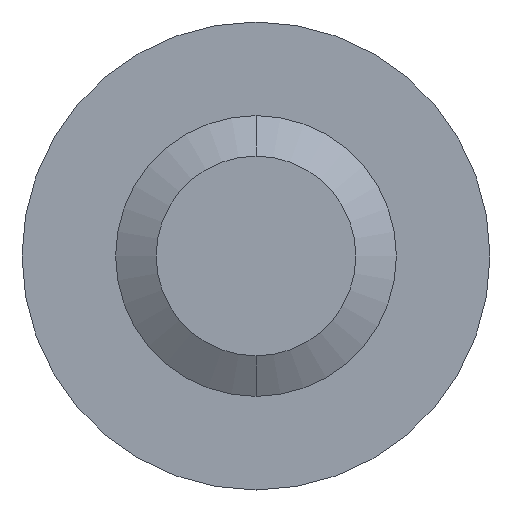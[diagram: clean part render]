
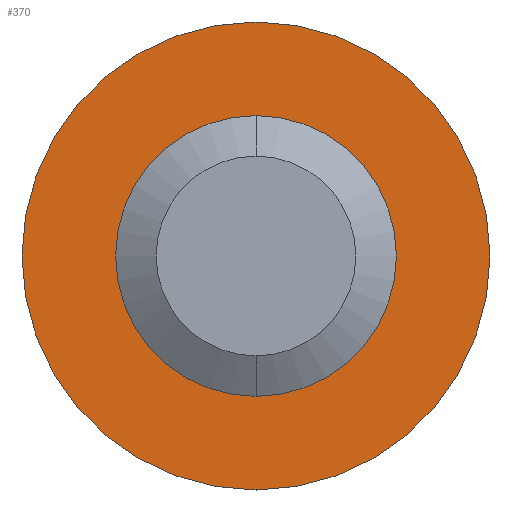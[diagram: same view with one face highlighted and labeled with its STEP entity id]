
A CAD part, front view. The second image highlights one B-rep face of the part: STEP entity #370.
In plain terms, the highlighted planar face has unit normal (0, -1, 0).
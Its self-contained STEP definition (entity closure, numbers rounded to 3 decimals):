
#30 = CARTESIAN_POINT ( 'NONE',  ( 0., 30., -5. ) ) ;
#64 = DIRECTION ( 'NONE',  ( 0., 0., 1. ) ) ;
#129 = EDGE_CURVE ( 'NONE', #1901, #2597, #3505, .T. ) ;
#142 = CARTESIAN_POINT ( 'NONE',  ( 0., 30., 0. ) ) ;
#302 = CARTESIAN_POINT ( 'NONE',  ( 0., 30., 0. ) ) ;
#370 = ADVANCED_FACE ( 'NONE', ( #1196, #916 ), #631, .F. ) ;
#412 = CARTESIAN_POINT ( 'NONE',  ( 0., 30., 0. ) ) ;
#453 = EDGE_LOOP ( 'NONE', ( #3685, #1745 ) ) ;
#480 = CIRCLE ( 'NONE', #2245, 5. ) ;
#527 = CARTESIAN_POINT ( 'NONE',  ( 0., 30., 3. ) ) ;
#631 = PLANE ( 'NONE',  #1923 ) ;
#721 = VERTEX_POINT ( 'NONE', #30 ) ;
#826 = AXIS2_PLACEMENT_3D ( 'NONE', #412, #1535, #968 ) ;
#916 = FACE_BOUND ( 'NONE', #453, .T. ) ;
#968 = DIRECTION ( 'NONE',  ( 0., 0., 1. ) ) ;
#1092 = EDGE_LOOP ( 'NONE', ( #2835, #2792 ) ) ;
#1132 = DIRECTION ( 'NONE',  ( 0., 0., 1. ) ) ;
#1196 = FACE_OUTER_BOUND ( 'NONE', #1092, .T. ) ;
#1317 = DIRECTION ( 'NONE',  ( 0., 0., 1. ) ) ;
#1464 = DIRECTION ( 'NONE',  ( 0., 1., 0. ) ) ;
#1535 = DIRECTION ( 'NONE',  ( 0., 1., 0. ) ) ;
#1557 = CIRCLE ( 'NONE', #826, 3. ) ;
#1699 = EDGE_CURVE ( 'NONE', #721, #2325, #2881, .T. ) ;
#1719 = CARTESIAN_POINT ( 'NONE',  ( 0., 30., -3. ) ) ;
#1745 = ORIENTED_EDGE ( 'NONE', *, *, #129, .T. ) ;
#1816 = CARTESIAN_POINT ( 'NONE',  ( 0., 30., 5. ) ) ;
#1901 = VERTEX_POINT ( 'NONE', #527 ) ;
#1903 = EDGE_CURVE ( 'NONE', #2325, #721, #480, .T. ) ;
#1923 = AXIS2_PLACEMENT_3D ( 'NONE', #3537, #2666, #64 ) ;
#2245 = AXIS2_PLACEMENT_3D ( 'NONE', #2576, #3745, #1132 ) ;
#2325 = VERTEX_POINT ( 'NONE', #1816 ) ;
#2334 = DIRECTION ( 'NONE',  ( 0., 0., 1. ) ) ;
#2576 = CARTESIAN_POINT ( 'NONE',  ( 0., 30., 0. ) ) ;
#2597 = VERTEX_POINT ( 'NONE', #1719 ) ;
#2666 = DIRECTION ( 'NONE',  ( 0., 1., 0. ) ) ;
#2742 = EDGE_CURVE ( 'NONE', #2597, #1901, #1557, .T. ) ;
#2767 = AXIS2_PLACEMENT_3D ( 'NONE', #302, #1464, #2334 ) ;
#2792 = ORIENTED_EDGE ( 'NONE', *, *, #1903, .F. ) ;
#2832 = AXIS2_PLACEMENT_3D ( 'NONE', #142, #3648, #1317 ) ;
#2835 = ORIENTED_EDGE ( 'NONE', *, *, #1699, .F. ) ;
#2881 = CIRCLE ( 'NONE', #2767, 5. ) ;
#3505 = CIRCLE ( 'NONE', #2832, 3. ) ;
#3537 = CARTESIAN_POINT ( 'NONE',  ( 0., 30., 0. ) ) ;
#3648 = DIRECTION ( 'NONE',  ( 0., 1., 0. ) ) ;
#3685 = ORIENTED_EDGE ( 'NONE', *, *, #2742, .T. ) ;
#3745 = DIRECTION ( 'NONE',  ( 0., 1., 0. ) ) ;
